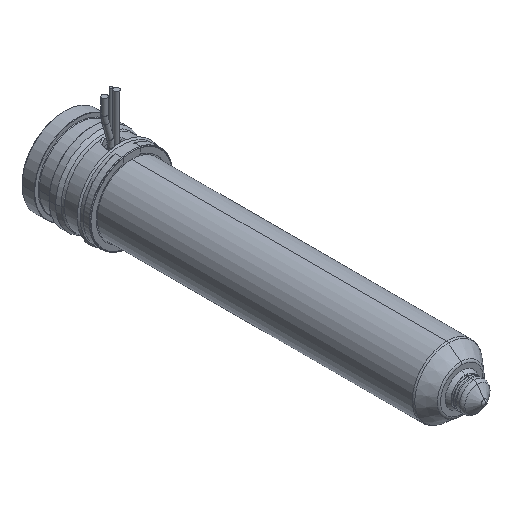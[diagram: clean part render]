
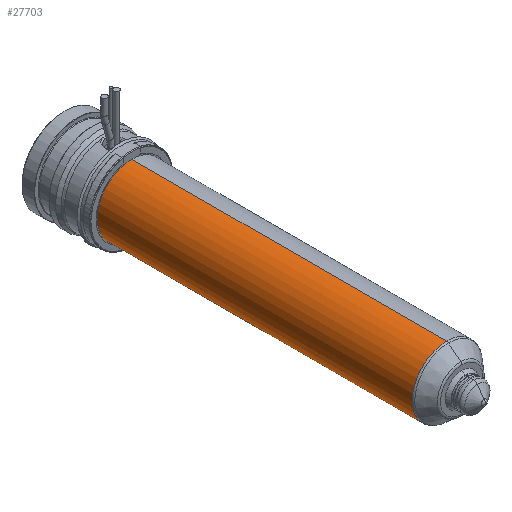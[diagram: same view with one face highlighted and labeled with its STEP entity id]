
A CAD part, isometric view. The second image highlights one B-rep face of the part: STEP entity #27703.
In plain terms, the highlighted cylindrical face has radius 12 mm (diameter 24 mm), a partial arc.
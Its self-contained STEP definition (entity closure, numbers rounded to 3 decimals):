
#27188=CARTESIAN_POINT('',(0.,-24.,0.));
#27189=DIRECTION('',(0.,1.,0.));
#27190=DIRECTION('',(0.,0.,-1.));
#27191=AXIS2_PLACEMENT_3D('',#27188,#27189,#27190);
#27196=DIRECTION('',(0.,1.,0.));
#27197=VECTOR('',#27196,109.736);
#27198=CARTESIAN_POINT('',(0.,-133.736,12.));
#27199=LINE('',#27198,#27197);
#27211=DIRECTION('',(0.,1.,0.));
#27212=VECTOR('',#27211,109.736);
#27213=CARTESIAN_POINT('',(0.,-133.736,-12.));
#27214=LINE('',#27213,#27212);
#27242=CARTESIAN_POINT('',(0.,-133.736,0.));
#27243=DIRECTION('',(0.,-1.,0.));
#27244=DIRECTION('',(0.,0.,1.));
#27245=AXIS2_PLACEMENT_3D('',#27242,#27243,#27244);
#27572=CARTESIAN_POINT('',(0.,-133.736,12.));
#27573=CARTESIAN_POINT('',(0.,-24.,12.));
#27574=VERTEX_POINT('',#27572);
#27575=VERTEX_POINT('',#27573);
#27576=CARTESIAN_POINT('',(0.,-133.736,-12.));
#27577=CARTESIAN_POINT('',(0.,-24.,-12.));
#27578=VERTEX_POINT('',#27576);
#27579=VERTEX_POINT('',#27577);
#27689=CARTESIAN_POINT('',(0.,-13.625,0.));
#27690=DIRECTION('',(0.,-1.,0.));
#27691=DIRECTION('',(0.,0.,1.));
#27692=AXIS2_PLACEMENT_3D('',#27689,#27690,#27691);
#27693=CYLINDRICAL_SURFACE('',#27692,12.);
#27695=ORIENTED_EDGE('',*,*,#27694,.F.);
#27697=ORIENTED_EDGE('',*,*,#27696,.T.);
#27699=ORIENTED_EDGE('',*,*,#27698,.T.);
#27700=ORIENTED_EDGE('',*,*,#27682,.T.);
#27701=EDGE_LOOP('',(#27695,#27697,#27699,#27700));
#27702=FACE_OUTER_BOUND('',#27701,.F.);
#27703=ADVANCED_FACE('',(#27702),#27693,.T.);
#27192=CIRCLE('',#27191,12.);
#27246=CIRCLE('',#27245,12.);
#27682=EDGE_CURVE('',#27579,#27575,#27192,.T.);
#27694=EDGE_CURVE('',#27574,#27575,#27199,.T.);
#27696=EDGE_CURVE('',#27574,#27578,#27246,.T.);
#27698=EDGE_CURVE('',#27578,#27579,#27214,.T.);
